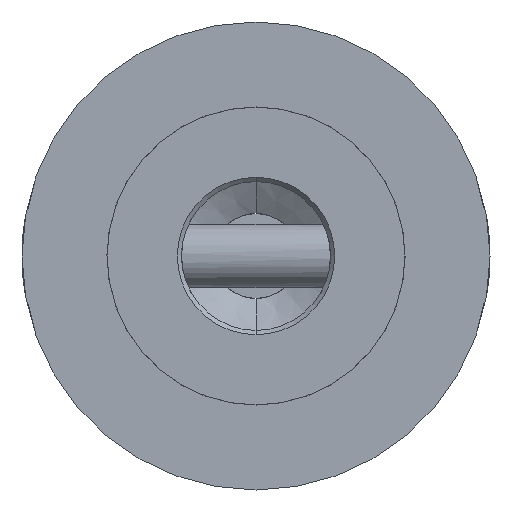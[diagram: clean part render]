
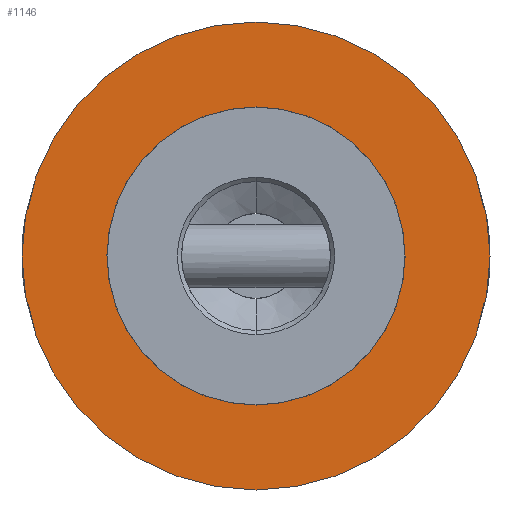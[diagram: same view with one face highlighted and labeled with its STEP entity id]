
A CAD part, front view. The second image highlights one B-rep face of the part: STEP entity #1146.
In plain terms, the highlighted planar face has unit normal (0, -1, 0).
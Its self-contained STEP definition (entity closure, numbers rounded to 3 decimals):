
#27 = VERTEX_POINT ( 'NONE', #1655 ) ;
#106 = DIRECTION ( 'NONE',  ( 0., 0., -1. ) ) ;
#309 = DIRECTION ( 'NONE',  ( 0., 0., -1. ) ) ;
#331 = DIRECTION ( 'NONE',  ( 0., -1., 0. ) ) ;
#338 = CARTESIAN_POINT ( 'NONE',  ( 0., -600., 0. ) ) ;
#347 = AXIS2_PLACEMENT_3D ( 'NONE', #991, #1822, #2028 ) ;
#382 = ORIENTED_EDGE ( 'NONE', *, *, #2108, .T. ) ;
#412 = CARTESIAN_POINT ( 'NONE',  ( 0., -600., 11. ) ) ;
#545 = EDGE_CURVE ( 'NONE', #3255, #1312, #932, .T. ) ;
#577 = DIRECTION ( 'NONE',  ( 0., -1., 0. ) ) ;
#651 = DIRECTION ( 'NONE',  ( 0., -1., 0. ) ) ;
#676 = FACE_BOUND ( 'NONE', #1258, .T. ) ;
#682 = CARTESIAN_POINT ( 'NONE',  ( 0., -600., 7.005 ) ) ;
#910 = DIRECTION ( 'NONE',  ( 0., 0., -1. ) ) ;
#932 = CIRCLE ( 'NONE', #2847, 7.005 ) ;
#991 = CARTESIAN_POINT ( 'NONE',  ( 0., -600., 0. ) ) ;
#1006 = CIRCLE ( 'NONE', #347, 7.005 ) ;
#1073 = EDGE_LOOP ( 'NONE', ( #382, #2055 ) ) ;
#1146 = ADVANCED_FACE ( 'NONE', ( #676, #2208 ), #3276, .T. ) ;
#1193 = DIRECTION ( 'NONE',  ( 0., -1., 0. ) ) ;
#1258 = EDGE_LOOP ( 'NONE', ( #2802, #2294 ) ) ;
#1278 = CIRCLE ( 'NONE', #1993, 11. ) ;
#1312 = VERTEX_POINT ( 'NONE', #2992 ) ;
#1435 = CARTESIAN_POINT ( 'NONE',  ( 0., -600., 0. ) ) ;
#1655 = CARTESIAN_POINT ( 'NONE',  ( 0., -600., -11. ) ) ;
#1822 = DIRECTION ( 'NONE',  ( 0., -1., 0. ) ) ;
#1832 = CARTESIAN_POINT ( 'NONE',  ( 0., -600., 0. ) ) ;
#1914 = EDGE_CURVE ( 'NONE', #1312, #3255, #1006, .T. ) ;
#1993 = AXIS2_PLACEMENT_3D ( 'NONE', #1435, #1193, #106 ) ;
#2028 = DIRECTION ( 'NONE',  ( 0., 0., -1. ) ) ;
#2055 = ORIENTED_EDGE ( 'NONE', *, *, #2563, .T. ) ;
#2108 = EDGE_CURVE ( 'NONE', #27, #3280, #3163, .T. ) ;
#2208 = FACE_OUTER_BOUND ( 'NONE', #1073, .T. ) ;
#2294 = ORIENTED_EDGE ( 'NONE', *, *, #545, .F. ) ;
#2563 = EDGE_CURVE ( 'NONE', #3280, #27, #1278, .T. ) ;
#2708 = CARTESIAN_POINT ( 'NONE',  ( 0., -600., 0. ) ) ;
#2802 = ORIENTED_EDGE ( 'NONE', *, *, #1914, .F. ) ;
#2847 = AXIS2_PLACEMENT_3D ( 'NONE', #338, #651, #309 ) ;
#2915 = DIRECTION ( 'NONE',  ( 0., 0., -1. ) ) ;
#2992 = CARTESIAN_POINT ( 'NONE',  ( 0., -600., -7.005 ) ) ;
#3029 = AXIS2_PLACEMENT_3D ( 'NONE', #2708, #331, #910 ) ;
#3107 = AXIS2_PLACEMENT_3D ( 'NONE', #1832, #577, #2915 ) ;
#3163 = CIRCLE ( 'NONE', #3107, 11. ) ;
#3255 = VERTEX_POINT ( 'NONE', #682 ) ;
#3276 = PLANE ( 'NONE',  #3029 ) ;
#3280 = VERTEX_POINT ( 'NONE', #412 ) ;
